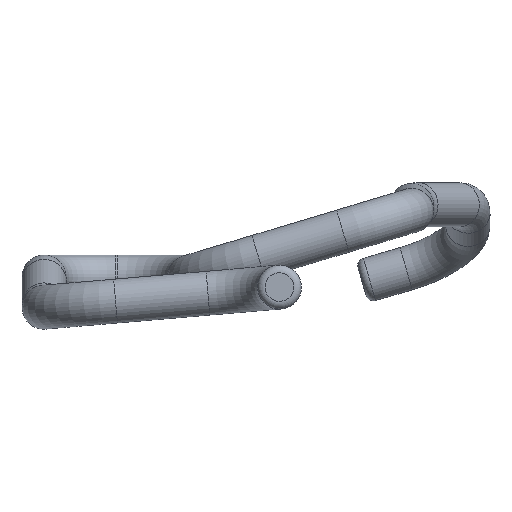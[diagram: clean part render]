
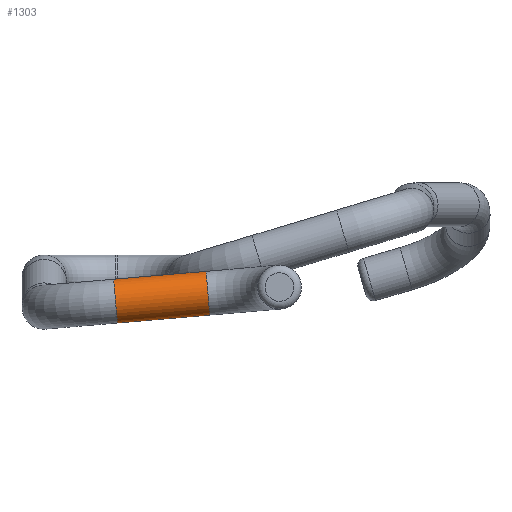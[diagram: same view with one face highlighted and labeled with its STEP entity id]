
A CAD part, front view. The second image highlights one B-rep face of the part: STEP entity #1303.
In plain terms, the highlighted cylindrical face has radius 1.15 mm (diameter 2.3 mm), a full revolution.
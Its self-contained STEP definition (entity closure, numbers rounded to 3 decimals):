
#1234 = TOROIDAL_SURFACE('',#1235,3.75,1.15);
#1235 = AXIS2_PLACEMENT_3D('',#1236,#1237,#1238);
#1236 = CARTESIAN_POINT('',(14.436,15.75,-8.031));
#1237 = DIRECTION('',(-0.085,0.,
    0.996));
#1238 = DIRECTION('',(-0.996,0.,
    -0.085));
#1252 = VERTEX_POINT('',#1253);
#1253 = CARTESIAN_POINT('',(14.339,11.918,
    -6.888));
#1275 = EDGE_CURVE('',#1252,#1252,#1276,.T.);
#1276 = SURFACE_CURVE('',#1277,(#1282,#1289),.PCURVE_S1.);
#1277 = CIRCLE('',#1278,1.15);
#1278 = AXIS2_PLACEMENT_3D('',#1279,#1280,#1281);
#1279 = CARTESIAN_POINT('',(14.436,12.,-8.031));
#1280 = DIRECTION('',(-0.996,0.,
    -0.085));
#1281 = DIRECTION('',(0.,-1.,0.));
#1282 = PCURVE('',#1234,#1283);
#1283 = DEFINITIONAL_REPRESENTATION('',(#1284),#1288);
#1284 = LINE('',#1285,#1286);
#1285 = CARTESIAN_POINT('',(1.571,0.));
#1286 = VECTOR('',#1287,1.);
#1287 = DIRECTION('',(0.,1.));
#1288 = ( GEOMETRIC_REPRESENTATION_CONTEXT(2) 
PARAMETRIC_REPRESENTATION_CONTEXT() REPRESENTATION_CONTEXT('2D SPACE',''
  ) );
#1289 = PCURVE('',#1290,#1295);
#1290 = CYLINDRICAL_SURFACE('',#1291,1.15);
#1291 = AXIS2_PLACEMENT_3D('',#1292,#1293,#1294);
#1292 = CARTESIAN_POINT('',(14.436,12.,-8.031));
#1293 = DIRECTION('',(0.996,0.,0.085));
#1294 = DIRECTION('',(-0.085,-0.071,
    0.994));
#1295 = DEFINITIONAL_REPRESENTATION('',(#1296),#1300);
#1296 = LINE('',#1297,#1298);
#1297 = CARTESIAN_POINT('',(7.782,0.));
#1298 = VECTOR('',#1299,1.);
#1299 = DIRECTION('',(-1.,-0.));
#1300 = ( GEOMETRIC_REPRESENTATION_CONTEXT(2) 
PARAMETRIC_REPRESENTATION_CONTEXT() REPRESENTATION_CONTEXT('2D SPACE',''
  ) );
#1303 = ADVANCED_FACE('',(#1304),#1290,.T.);
#1304 = FACE_BOUND('',#1305,.T.);
#1305 = EDGE_LOOP('',(#1306,#1329,#1356,#1357));
#1306 = ORIENTED_EDGE('',*,*,#1307,.T.);
#1307 = EDGE_CURVE('',#1252,#1308,#1310,.T.);
#1308 = VERTEX_POINT('',#1309);
#1309 = CARTESIAN_POINT('',(19.166,11.918,
    -6.476));
#1310 = SEAM_CURVE('',#1311,(#1315,#1322),.PCURVE_S1.);
#1311 = LINE('',#1312,#1313);
#1312 = CARTESIAN_POINT('',(14.339,11.918,
    -6.888));
#1313 = VECTOR('',#1314,1.);
#1314 = DIRECTION('',(0.996,0.,0.085));
#1315 = PCURVE('',#1290,#1316);
#1316 = DEFINITIONAL_REPRESENTATION('',(#1317),#1321);
#1317 = LINE('',#1318,#1319);
#1318 = CARTESIAN_POINT('',(6.283,0.));
#1319 = VECTOR('',#1320,1.);
#1320 = DIRECTION('',(0.,1.));
#1321 = ( GEOMETRIC_REPRESENTATION_CONTEXT(2) 
PARAMETRIC_REPRESENTATION_CONTEXT() REPRESENTATION_CONTEXT('2D SPACE',''
  ) );
#1322 = PCURVE('',#1290,#1323);
#1323 = DEFINITIONAL_REPRESENTATION('',(#1324),#1328);
#1324 = LINE('',#1325,#1326);
#1325 = CARTESIAN_POINT('',(0.,0.));
#1326 = VECTOR('',#1327,1.);
#1327 = DIRECTION('',(0.,1.));
#1328 = ( GEOMETRIC_REPRESENTATION_CONTEXT(2) 
PARAMETRIC_REPRESENTATION_CONTEXT() REPRESENTATION_CONTEXT('2D SPACE',''
  ) );
#1329 = ORIENTED_EDGE('',*,*,#1330,.F.);
#1330 = EDGE_CURVE('',#1308,#1308,#1331,.T.);
#1331 = SURFACE_CURVE('',#1332,(#1337,#1344),.PCURVE_S1.);
#1332 = CIRCLE('',#1333,1.15);
#1333 = AXIS2_PLACEMENT_3D('',#1334,#1335,#1336);
#1334 = CARTESIAN_POINT('',(19.264,12.,-7.619));
#1335 = DIRECTION('',(0.996,0.,
    0.085));
#1336 = DIRECTION('',(-0.085,-0.071,
    0.994));
#1337 = PCURVE('',#1290,#1338);
#1338 = DEFINITIONAL_REPRESENTATION('',(#1339),#1343);
#1339 = LINE('',#1340,#1341);
#1340 = CARTESIAN_POINT('',(0.,4.845));
#1341 = VECTOR('',#1342,1.);
#1342 = DIRECTION('',(1.,0.));
#1343 = ( GEOMETRIC_REPRESENTATION_CONTEXT(2) 
PARAMETRIC_REPRESENTATION_CONTEXT() REPRESENTATION_CONTEXT('2D SPACE',''
  ) );
#1344 = PCURVE('',#1345,#1350);
#1345 = TOROIDAL_SURFACE('',#1346,3.75,1.15);
#1346 = AXIS2_PLACEMENT_3D('',#1347,#1348,#1349);
#1347 = CARTESIAN_POINT('',(19.264,8.25,-7.619));
#1348 = DIRECTION('',(0.085,0.,
    -0.996));
#1349 = DIRECTION('',(0.,1.,0.));
#1350 = DEFINITIONAL_REPRESENTATION('',(#1351),#1355);
#1351 = LINE('',#1352,#1353);
#1352 = CARTESIAN_POINT('',(0.,10.924));
#1353 = VECTOR('',#1354,1.);
#1354 = DIRECTION('',(-0.,-1.));
#1355 = ( GEOMETRIC_REPRESENTATION_CONTEXT(2) 
PARAMETRIC_REPRESENTATION_CONTEXT() REPRESENTATION_CONTEXT('2D SPACE',''
  ) );
#1356 = ORIENTED_EDGE('',*,*,#1307,.F.);
#1357 = ORIENTED_EDGE('',*,*,#1275,.F.);
